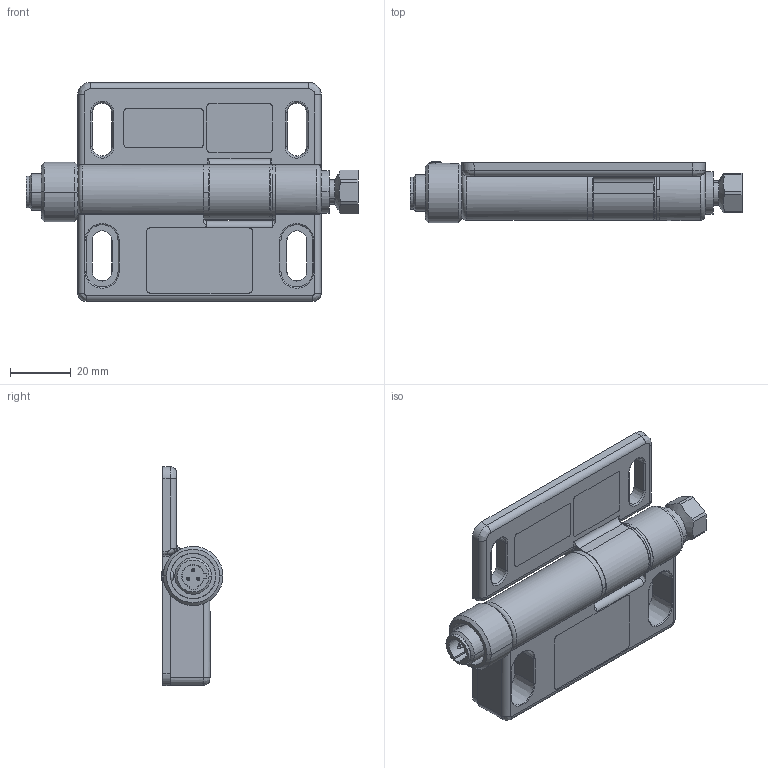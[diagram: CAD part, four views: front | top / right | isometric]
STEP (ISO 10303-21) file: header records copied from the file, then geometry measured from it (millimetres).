
FILE_DESCRIPTION((''),'2;1');
FILE_NAME('6019261017_ASM','2014-07-25T',('Yvonne.Storm'),(''),'PRO/ENGINEER BY PARAMETRIC TECHNOLOGY CORPORATION, 2012360','PRO/ENGINEER BY PARAMETRIC TECHNOLOGY CORPORATION, 2012360','');
FILE_SCHEMA(('AUTOMOTIVE_DESIGN { 1 0 10303 214 1 1 1 1 }'));
Length unit declared in the file: millimetre
Products named in the file (2): _6019261017; 6019261017_ASM
Assembly tree (1 placements, depth 2):
  6019261017_ASM
    _6019261017
Bounding box: 109.1 x 20.25 x 72 mm (x, y, z)
Surface area: 24072 mm2
Topology: 1 solids, 32 shells, 325 faces, 1233 edges, 920 vertices
Faces by surface type: plane 127, cylinder 86, cone 42, extrusion 30, bspline 20, torus 12, sphere 8
Entity records: 19674 total; most frequent: CARTESIAN_POINT 9025, ORIENTED_EDGE 1891, DIRECTION 1685, EDGE_CURVE 1225, VERTEX_POINT 920, VECTOR 665, LINE 635, AXIS2_PLACEMENT_3D 510
